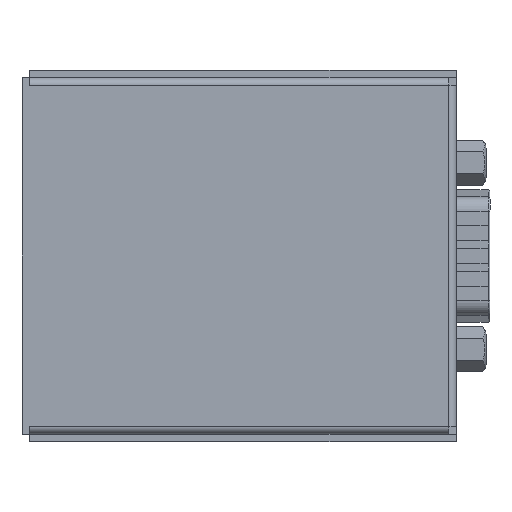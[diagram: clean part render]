
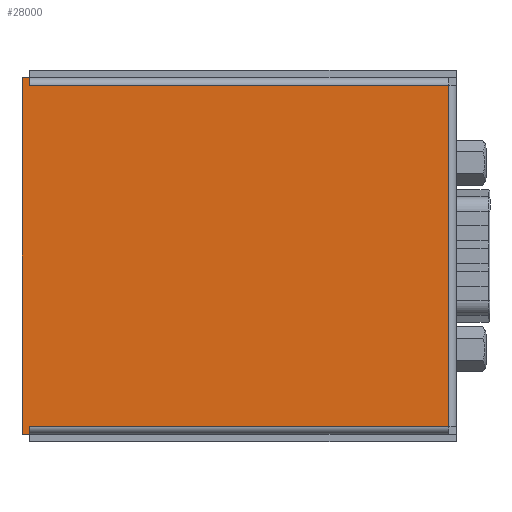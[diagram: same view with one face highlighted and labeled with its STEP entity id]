
A CAD part, front view. The second image highlights one B-rep face of the part: STEP entity #28000.
In plain terms, the highlighted planar face has unit normal (0, -1, 0).
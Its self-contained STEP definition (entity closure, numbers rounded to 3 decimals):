
#2901=FACE_OUTER_BOUND('',#4458,.T.);
#4458=EDGE_LOOP('',(#25379,#25380,#25381,#25382,#25383,#25384,#25385,#25386));
#7484=LINE('',#56942,#10612);
#7485=LINE('',#56948,#10613);
#7544=LINE('',#57080,#10672);
#7550=LINE('',#57090,#10678);
#7579=LINE('',#57158,#10707);
#7583=LINE('',#57167,#10711);
#7584=LINE('',#57170,#10712);
#7596=LINE('',#57201,#10724);
#10612=VECTOR('',#36500,10.);
#10613=VECTOR('',#36505,10.);
#10672=VECTOR('',#36634,10.);
#10678=VECTOR('',#36644,10.);
#10707=VECTOR('',#36723,10.);
#10711=VECTOR('',#36735,10.);
#10712=VECTOR('',#36738,10.);
#10724=VECTOR('',#36780,10.);
#13253=VERTEX_POINT('',#56938);
#13254=VERTEX_POINT('',#56940);
#13255=VERTEX_POINT('',#56944);
#13257=VERTEX_POINT('',#56947);
#13294=VERTEX_POINT('',#57077);
#13295=VERTEX_POINT('',#57079);
#13311=VERTEX_POINT('',#57156);
#13313=VERTEX_POINT('',#57169);
#17207=EDGE_CURVE('',#13254,#13253,#7484,.T.);
#17209=EDGE_CURVE('',#13255,#13257,#7485,.T.);
#17278=EDGE_CURVE('',#13294,#13295,#7544,.T.);
#17284=EDGE_CURVE('',#13254,#13295,#7550,.T.);
#17318=EDGE_CURVE('',#13255,#13311,#7579,.T.);
#17323=EDGE_CURVE('',#13257,#13294,#7583,.T.);
#17324=EDGE_CURVE('',#13313,#13253,#7584,.T.);
#17342=EDGE_CURVE('',#13311,#13313,#7596,.T.);
#25379=ORIENTED_EDGE('',*,*,#17318,.T.);
#25380=ORIENTED_EDGE('',*,*,#17342,.T.);
#25381=ORIENTED_EDGE('',*,*,#17324,.T.);
#25382=ORIENTED_EDGE('',*,*,#17207,.F.);
#25383=ORIENTED_EDGE('',*,*,#17284,.T.);
#25384=ORIENTED_EDGE('',*,*,#17278,.F.);
#25385=ORIENTED_EDGE('',*,*,#17323,.F.);
#25386=ORIENTED_EDGE('',*,*,#17209,.F.);
#26476=PLANE('',#29951);
#28000=ADVANCED_FACE('',(#2901),#26476,.F.);
#29951=AXIS2_PLACEMENT_3D('',#57205,#36787,#36788);
#36500=DIRECTION('',(0.,0.,-1.));
#36505=DIRECTION('',(0.,0.,-1.));
#36634=DIRECTION('',(0.,0.,1.));
#36644=DIRECTION('',(-1.,0.,0.));
#36723=DIRECTION('',(1.,0.,0.));
#36735=DIRECTION('',(-1.,0.,0.));
#36738=DIRECTION('',(-1.,0.,0.));
#36780=DIRECTION('',(0.,0.,1.));
#36787=DIRECTION('center_axis',(0.,1.,0.));
#36788=DIRECTION('ref_axis',(1.,0.,0.));
#56938=CARTESIAN_POINT('',(-2.075,-6.,1.64));
#56940=CARTESIAN_POINT('',(-2.075,-6.,2.65));
#56942=CARTESIAN_POINT('',(-2.075,-6.,2.65));
#56944=CARTESIAN_POINT('',(-2.075,-6.,-44.04));
#56947=CARTESIAN_POINT('',(-2.075,-6.,-45.05));
#56948=CARTESIAN_POINT('',(-2.075,-6.,2.65));
#57077=CARTESIAN_POINT('',(-3.075,-6.,-45.05));
#57079=CARTESIAN_POINT('',(-3.075,-6.,2.65));
#57080=CARTESIAN_POINT('',(-3.075,-6.,2.65));
#57090=CARTESIAN_POINT('',(-2.075,-6.,2.65));
#57156=CARTESIAN_POINT('',(54.065,-6.,-44.04));
#57158=CARTESIAN_POINT('',(40.283,-6.,-44.04));
#57167=CARTESIAN_POINT('',(-2.075,-6.,-45.05));
#57169=CARTESIAN_POINT('',(54.065,-6.,1.64));
#57170=CARTESIAN_POINT('',(12.213,-6.,1.64));
#57201=CARTESIAN_POINT('',(54.065,-6.,-9.275));
#57205=CARTESIAN_POINT('Origin',(26.5,-6.,-21.2));
